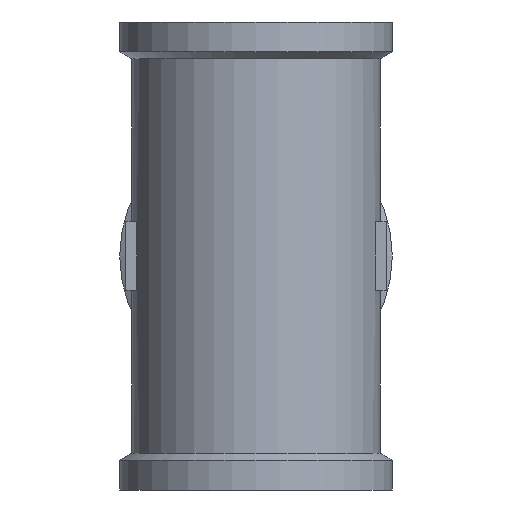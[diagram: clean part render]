
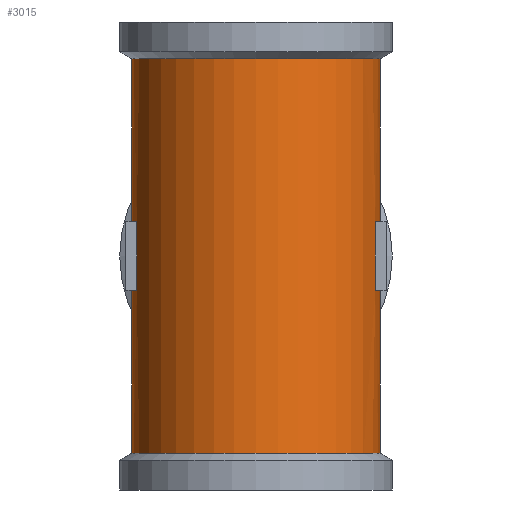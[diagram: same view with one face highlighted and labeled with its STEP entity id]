
A CAD part, front view. The second image highlights one B-rep face of the part: STEP entity #3015.
In plain terms, the highlighted cylindrical face has radius 15.25 mm (diameter 30.5 mm), a full revolution.
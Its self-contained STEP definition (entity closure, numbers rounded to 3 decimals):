
#47=CYLINDRICAL_SURFACE('',#3215,15.25);
#94=CIRCLE('',#3214,15.25);
#95=CIRCLE('',#3216,15.25);
#96=CIRCLE('',#3217,15.25);
#97=CIRCLE('',#3218,15.25);
#98=CIRCLE('',#3219,15.25);
#99=CIRCLE('',#3221,15.25);
#100=CIRCLE('',#3222,15.25);
#101=CIRCLE('',#3224,15.25);
#170=LINE('',#4183,#403);
#171=LINE('',#4187,#404);
#172=LINE('',#4193,#405);
#173=LINE('',#4201,#406);
#403=VECTOR('',#3448,15.25);
#404=VECTOR('',#3451,10.);
#405=VECTOR('',#3456,15.25);
#406=VECTOR('',#3465,10.);
#715=FACE_OUTER_BOUND('',#888,.T.);
#888=EDGE_LOOP('',(#2049,#2050,#2051,#2052,#2053,#2054,#2055,#2056,#2057,
#2058,#2059,#2060,#2061,#2062,#2063,#2064,#2065,#2066));
#1081=ELLIPSE('',#3208,21.923,15.25);
#1082=ELLIPSE('',#3209,21.923,15.25);
#1084=ELLIPSE('',#3220,21.923,15.25);
#1085=ELLIPSE('',#3223,21.923,15.25);
#1245=VERTEX_POINT('',#4133);
#1247=VERTEX_POINT('',#4139);
#1248=VERTEX_POINT('',#4141);
#1256=VERTEX_POINT('',#4173);
#1258=VERTEX_POINT('',#4179);
#1259=VERTEX_POINT('',#4180);
#1260=VERTEX_POINT('',#4184);
#1261=VERTEX_POINT('',#4186);
#1262=VERTEX_POINT('',#4188);
#1263=VERTEX_POINT('',#4190);
#1264=VERTEX_POINT('',#4192);
#1265=VERTEX_POINT('',#4194);
#1266=VERTEX_POINT('',#4197);
#1267=VERTEX_POINT('',#4199);
#1563=EDGE_CURVE('',#1245,#1247,#1081,.T.);
#1564=EDGE_CURVE('',#1247,#1248,#1082,.T.);
#1574=EDGE_CURVE('',#1248,#1256,#94,.T.);
#1577=EDGE_CURVE('',#1258,#1259,#95,.T.);
#1578=EDGE_CURVE('',#1259,#1258,#96,.T.);
#1579=EDGE_CURVE('',#1259,#1247,#170,.T.);
#1580=EDGE_CURVE('',#1260,#1245,#97,.T.);
#1581=EDGE_CURVE('',#1261,#1260,#171,.T.);
#1582=EDGE_CURVE('',#1262,#1261,#98,.T.);
#1583=EDGE_CURVE('',#1263,#1262,#1084,.T.);
#1584=EDGE_CURVE('',#1263,#1264,#172,.T.);
#1585=EDGE_CURVE('',#1264,#1265,#99,.T.);
#1586=EDGE_CURVE('',#1265,#1264,#100,.T.);
#1587=EDGE_CURVE('',#1266,#1263,#1085,.T.);
#1588=EDGE_CURVE('',#1267,#1266,#101,.T.);
#1589=EDGE_CURVE('',#1256,#1267,#173,.T.);
#2049=ORIENTED_EDGE('',*,*,#1577,.F.);
#2050=ORIENTED_EDGE('',*,*,#1578,.F.);
#2051=ORIENTED_EDGE('',*,*,#1579,.T.);
#2052=ORIENTED_EDGE('',*,*,#1563,.F.);
#2053=ORIENTED_EDGE('',*,*,#1580,.F.);
#2054=ORIENTED_EDGE('',*,*,#1581,.F.);
#2055=ORIENTED_EDGE('',*,*,#1582,.F.);
#2056=ORIENTED_EDGE('',*,*,#1583,.F.);
#2057=ORIENTED_EDGE('',*,*,#1584,.T.);
#2058=ORIENTED_EDGE('',*,*,#1585,.T.);
#2059=ORIENTED_EDGE('',*,*,#1586,.T.);
#2060=ORIENTED_EDGE('',*,*,#1584,.F.);
#2061=ORIENTED_EDGE('',*,*,#1587,.F.);
#2062=ORIENTED_EDGE('',*,*,#1588,.F.);
#2063=ORIENTED_EDGE('',*,*,#1589,.F.);
#2064=ORIENTED_EDGE('',*,*,#1574,.F.);
#2065=ORIENTED_EDGE('',*,*,#1564,.F.);
#2066=ORIENTED_EDGE('',*,*,#1579,.F.);
#3015=ADVANCED_FACE('',(#715),#47,.T.);
#3208=AXIS2_PLACEMENT_3D('',#4140,#3423,#3424);
#3209=AXIS2_PLACEMENT_3D('',#4142,#3425,#3426);
#3214=AXIS2_PLACEMENT_3D('',#4174,#3438,#3439);
#3215=AXIS2_PLACEMENT_3D('',#4178,#3442,#3443);
#3216=AXIS2_PLACEMENT_3D('',#4181,#3444,#3445);
#3217=AXIS2_PLACEMENT_3D('',#4182,#3446,#3447);
#3218=AXIS2_PLACEMENT_3D('',#4185,#3449,#3450);
#3219=AXIS2_PLACEMENT_3D('',#4189,#3452,#3453);
#3220=AXIS2_PLACEMENT_3D('',#4191,#3454,#3455);
#3221=AXIS2_PLACEMENT_3D('',#4195,#3457,#3458);
#3222=AXIS2_PLACEMENT_3D('',#4196,#3459,#3460);
#3223=AXIS2_PLACEMENT_3D('',#4198,#3461,#3462);
#3224=AXIS2_PLACEMENT_3D('',#4200,#3463,#3464);
#3423=DIRECTION('center_axis',(0.,0.718,
-0.696));
#3424=DIRECTION('ref_axis',(0.,0.696,0.718));
#3425=DIRECTION('center_axis',(0.,0.718,
-0.696));
#3426=DIRECTION('ref_axis',(0.,0.696,0.718));
#3438=DIRECTION('center_axis',(0.,0.,-1.));
#3439=DIRECTION('ref_axis',(0.,-1.,0.));
#3442=DIRECTION('center_axis',(0.,0.,1.));
#3443=DIRECTION('ref_axis',(0.,-1.,0.));
#3444=DIRECTION('center_axis',(0.,0.,1.));
#3445=DIRECTION('ref_axis',(1.,0.,0.));
#3446=DIRECTION('center_axis',(0.,0.,1.));
#3447=DIRECTION('ref_axis',(1.,0.,0.));
#3448=DIRECTION('',(0.,0.,-1.));
#3449=DIRECTION('center_axis',(0.,0.,-1.));
#3450=DIRECTION('ref_axis',(0.,-1.,0.));
#3451=DIRECTION('',(0.,0.,1.));
#3452=DIRECTION('center_axis',(0.,0.,1.));
#3453=DIRECTION('ref_axis',(0.,-1.,0.));
#3454=DIRECTION('center_axis',(0.,0.718,0.696));
#3455=DIRECTION('ref_axis',(0.,0.696,-0.718));
#3456=DIRECTION('',(0.,0.,-1.));
#3457=DIRECTION('center_axis',(0.,0.,1.));
#3458=DIRECTION('ref_axis',(1.,0.,0.));
#3459=DIRECTION('center_axis',(0.,0.,1.));
#3460=DIRECTION('ref_axis',(1.,0.,0.));
#3461=DIRECTION('center_axis',(0.,0.718,0.696));
#3462=DIRECTION('ref_axis',(0.,0.696,-0.718));
#3463=DIRECTION('center_axis',(0.,0.,1.));
#3464=DIRECTION('ref_axis',(0.,-1.,0.));
#3465=DIRECTION('',(0.,0.,-1.));
#4133=CARTESIAN_POINT('',(-14.688,4.103,4.237));
#4139=CARTESIAN_POINT('',(0.,15.25,15.75));
#4140=CARTESIAN_POINT('Origin',(0.,0.,0.));
#4141=CARTESIAN_POINT('',(14.688,4.103,4.237));
#4142=CARTESIAN_POINT('Origin',(0.,0.,0.));
#4173=CARTESIAN_POINT('',(14.65,-4.237,4.237));
#4174=CARTESIAN_POINT('Origin',(0.,0.,4.237));
#4178=CARTESIAN_POINT('Origin',(0.,0.,0.));
#4179=CARTESIAN_POINT('',(0.,-15.25,24.25));
#4180=CARTESIAN_POINT('',(0.,15.25,24.25));
#4181=CARTESIAN_POINT('Origin',(0.,0.,24.25));
#4182=CARTESIAN_POINT('Origin',(0.,0.,24.25));
#4183=CARTESIAN_POINT('',(0.,15.25,0.));
#4184=CARTESIAN_POINT('',(-14.65,-4.237,4.237));
#4185=CARTESIAN_POINT('Origin',(0.,0.,4.237));
#4186=CARTESIAN_POINT('',(-14.65,-4.237,-4.237));
#4187=CARTESIAN_POINT('',(-14.65,-4.237,0.));
#4188=CARTESIAN_POINT('',(-14.688,4.103,-4.237));
#4189=CARTESIAN_POINT('Origin',(0.,0.,-4.237));
#4190=CARTESIAN_POINT('',(0.,15.25,-15.75));
#4191=CARTESIAN_POINT('Origin',(0.,0.,0.));
#4192=CARTESIAN_POINT('',(0.,15.25,-24.25));
#4193=CARTESIAN_POINT('',(0.,15.25,0.));
#4194=CARTESIAN_POINT('',(0.,-15.25,-24.25));
#4195=CARTESIAN_POINT('Origin',(0.,0.,-24.25));
#4196=CARTESIAN_POINT('Origin',(0.,0.,-24.25));
#4197=CARTESIAN_POINT('',(14.688,4.103,-4.237));
#4198=CARTESIAN_POINT('Origin',(0.,0.,0.));
#4199=CARTESIAN_POINT('',(14.65,-4.237,-4.237));
#4200=CARTESIAN_POINT('Origin',(0.,0.,-4.237));
#4201=CARTESIAN_POINT('',(14.65,-4.237,0.));
